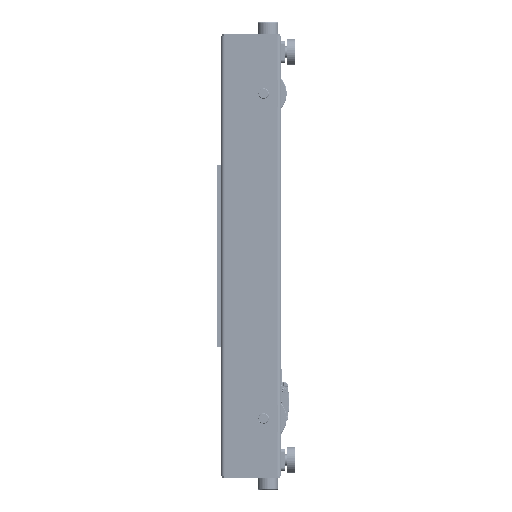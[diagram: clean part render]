
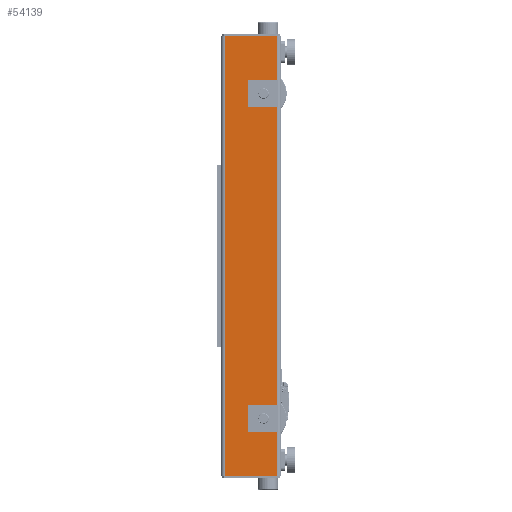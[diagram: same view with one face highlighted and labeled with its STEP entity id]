
A CAD part, left-side view. The second image highlights one B-rep face of the part: STEP entity #54139.
In plain terms, the highlighted planar face has unit normal (-1, 0, 0).
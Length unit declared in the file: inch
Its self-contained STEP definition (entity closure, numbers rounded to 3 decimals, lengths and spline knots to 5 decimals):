
#1037 = DIRECTION ( 'NONE',  ( 1., 0., 0. ) ) ;
#1125 = AXIS2_PLACEMENT_3D ( 'NONE', #24558, #165255, #11297 ) ;
#11297 = DIRECTION ( 'NONE',  ( 0., 1., 0. ) ) ;
#13743 = DIRECTION ( 'NONE',  ( 0., 0., -1. ) ) ;
#17229 = DIRECTION ( 'NONE',  ( 0., 1., 0. ) ) ;
#20094 = VERTEX_POINT ( 'NONE', #79099 ) ;
#20768 = VERTEX_POINT ( 'NONE', #75094 ) ;
#24026 = CARTESIAN_POINT ( 'NONE',  ( 0., 2.326, 20.8095 ) ) ;
#24558 = CARTESIAN_POINT ( 'NONE',  ( 0., 2.326, -21.5005 ) ) ;
#25029 = DIRECTION ( 'NONE',  ( 0., -1., 0. ) ) ;
#25998 = CARTESIAN_POINT ( 'NONE',  ( 0., 7.5, 29.0625 ) ) ;
#27902 = VECTOR ( 'NONE', #179817, 39.37008 ) ;
#32813 = ORIENTED_EDGE ( 'NONE', *, *, #194248, .T. ) ;
#39154 = ORIENTED_EDGE ( 'NONE', *, *, #74308, .T. ) ;
#40878 = AXIS2_PLACEMENT_3D ( 'NONE', #109218, #190650, #145782 ) ;
#45864 = PLANE ( 'NONE',  #56335 ) ;
#48155 = VERTEX_POINT ( 'NONE', #160114 ) ;
#48371 = CIRCLE ( 'NONE', #178456, 0.69 ) ;
#48913 = FACE_OUTER_BOUND ( 'NONE', #131918, .T. ) ;
#54139 = ADVANCED_FACE ( 'NONE', ( #142743, #77581, #48913 ), #45864, .F. ) ;
#56335 = AXIS2_PLACEMENT_3D ( 'NONE', #95900, #1037, #126477 ) ;
#57688 = CARTESIAN_POINT ( 'NONE',  ( 0., 0.5, -29.0625 ) ) ;
#65225 = DIRECTION ( 'NONE',  ( 0., 1., 0. ) ) ;
#70450 = ORIENTED_EDGE ( 'NONE', *, *, #137792, .T. ) ;
#73004 = ORIENTED_EDGE ( 'NONE', *, *, #137129, .F. ) ;
#73519 = VERTEX_POINT ( 'NONE', #132231 ) ;
#73998 = VERTEX_POINT ( 'NONE', #143031 ) ;
#74308 = EDGE_CURVE ( 'NONE', #48155, #188514, #80202, .T. ) ;
#75094 = CARTESIAN_POINT ( 'NONE',  ( 0., 2.326, -22.1905 ) ) ;
#77581 = FACE_BOUND ( 'NONE', #126000, .T. ) ;
#79099 = CARTESIAN_POINT ( 'NONE',  ( 0., 7.5, 29.0625 ) ) ;
#80202 = CIRCLE ( 'NONE', #40878, 0.69 ) ;
#80404 = ORIENTED_EDGE ( 'NONE', *, *, #101564, .T. ) ;
#80772 = EDGE_CURVE ( 'NONE', #20094, #73519, #153443, .T. ) ;
#94791 = DIRECTION ( 'NONE',  ( 1., 0., 0. ) ) ;
#95900 = CARTESIAN_POINT ( 'NONE',  ( 0., 0.5, 29.0625 ) ) ;
#96521 = ORIENTED_EDGE ( 'NONE', *, *, #123483, .T. ) ;
#101564 = EDGE_CURVE ( 'NONE', #20768, #73998, #48371, .T. ) ;
#102367 = CIRCLE ( 'NONE', #167493, 0.69 ) ;
#107413 = DIRECTION ( 'NONE',  ( 0., -1., 0. ) ) ;
#109218 = CARTESIAN_POINT ( 'NONE',  ( 0., 2.326, 21.4995 ) ) ;
#110118 = CARTESIAN_POINT ( 'NONE',  ( 0., 2.326, 21.4995 ) ) ;
#111609 = VECTOR ( 'NONE', #107413, 39.37008 ) ;
#115658 = EDGE_CURVE ( 'NONE', #192428, #153289, #165548, .T. ) ;
#118860 = LINE ( 'NONE', #57688, #180953 ) ;
#123483 = EDGE_CURVE ( 'NONE', #73519, #153289, #118860, .T. ) ;
#126000 = EDGE_LOOP ( 'NONE', ( #32813, #39154 ) ) ;
#126477 = DIRECTION ( 'NONE',  ( 0., 1., 0. ) ) ;
#131918 = EDGE_LOOP ( 'NONE', ( #96521, #146144, #73004, #190739 ) ) ;
#132231 = CARTESIAN_POINT ( 'NONE',  ( 0., 7.5, -29.0625 ) ) ;
#133376 = VECTOR ( 'NONE', #13743, 39.37008 ) ;
#134970 = LINE ( 'NONE', #167523, #111609 ) ;
#135011 = CARTESIAN_POINT ( 'NONE',  ( 0., 0.5, 29.0625 ) ) ;
#137129 = EDGE_CURVE ( 'NONE', #20094, #192428, #134970, .T. ) ;
#137792 = EDGE_CURVE ( 'NONE', #73998, #20768, #170362, .T. ) ;
#142743 = FACE_BOUND ( 'NONE', #182381, .T. ) ;
#143031 = CARTESIAN_POINT ( 'NONE',  ( 0., 2.326, -20.8105 ) ) ;
#145782 = DIRECTION ( 'NONE',  ( 0., 1., 0. ) ) ;
#146144 = ORIENTED_EDGE ( 'NONE', *, *, #115658, .F. ) ;
#153289 = VERTEX_POINT ( 'NONE', #197313 ) ;
#153443 = LINE ( 'NONE', #25998, #133376 ) ;
#159973 = DIRECTION ( 'NONE',  ( 1., 0., 0. ) ) ;
#160114 = CARTESIAN_POINT ( 'NONE',  ( 0., 2.326, 22.1895 ) ) ;
#165255 = DIRECTION ( 'NONE',  ( 1., 0., 0. ) ) ;
#165548 = LINE ( 'NONE', #135011, #27902 ) ;
#167493 = AXIS2_PLACEMENT_3D ( 'NONE', #110118, #159973, #65225 ) ;
#167523 = CARTESIAN_POINT ( 'NONE',  ( 0., 0.5, 29.0625 ) ) ;
#170362 = CIRCLE ( 'NONE', #1125, 0.69 ) ;
#178456 = AXIS2_PLACEMENT_3D ( 'NONE', #189476, #94791, #17229 ) ;
#179817 = DIRECTION ( 'NONE',  ( 0., 0., -1. ) ) ;
#180953 = VECTOR ( 'NONE', #25029, 39.37008 ) ;
#182381 = EDGE_LOOP ( 'NONE', ( #80404, #70450 ) ) ;
#188514 = VERTEX_POINT ( 'NONE', #24026 ) ;
#188598 = CARTESIAN_POINT ( 'NONE',  ( 0., 0.5, 29.0625 ) ) ;
#189476 = CARTESIAN_POINT ( 'NONE',  ( 0., 2.326, -21.5005 ) ) ;
#190650 = DIRECTION ( 'NONE',  ( 1., 0., 0. ) ) ;
#190739 = ORIENTED_EDGE ( 'NONE', *, *, #80772, .T. ) ;
#192428 = VERTEX_POINT ( 'NONE', #188598 ) ;
#194248 = EDGE_CURVE ( 'NONE', #188514, #48155, #102367, .T. ) ;
#197313 = CARTESIAN_POINT ( 'NONE',  ( 0., 0.5, -29.0625 ) ) ;
